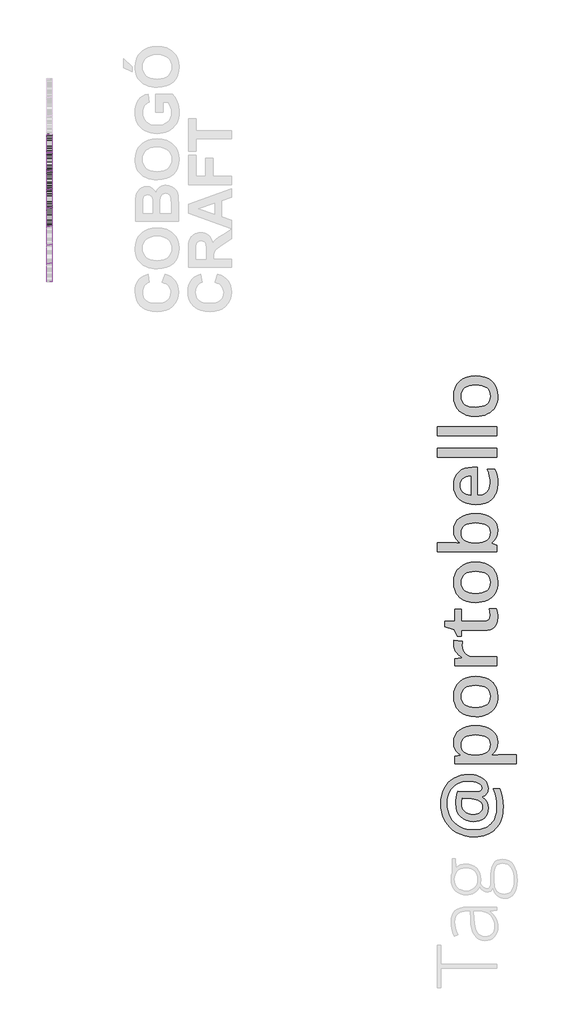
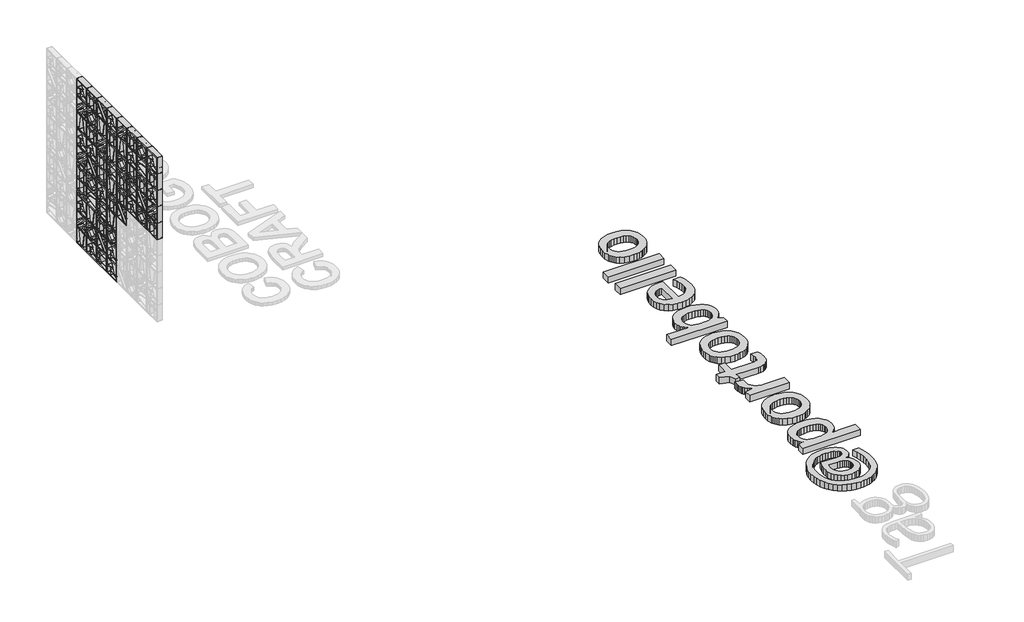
# One storey, part 6 of 8: 62 proxies.
"""IFC4 building model written with IfcOpenShell, lengths in millimetres."""

from ifc_helpers import new_model, si_unit, origin, origin_with_axes, place, context, project, spatial, polyline, outline, extrude, transform, mapped, element, save
from components import plate_7499bc92, plate_dd80494e, plate_f0cbffd6, plate_92f93356, plate_8e8c4e3e, generic_models_fdc848f5, generic_models_516c6d05, generic_models_dbe83256, generic_models_90d806fa, generic_models_d5a960b2

model = new_model("IFC4")

# Units and contexts
model_context = context("Model", 3, world=origin())
ifc_project = project(units=[si_unit("LENGTHUNIT", "METRE", prefix="MILLI")], contexts=[model_context])

# Site, building, storey
site = spatial("IfcSite", under=ifc_project)
building = spatial("IfcBuilding", under=site)
storey = spatial("IfcBuildingStorey", under=building, Name="PORTOBELLO - SHOWROOM", Elevation=0.0)

# Proxies
placement = place(None, origin())
plate_shape = plate_7499bc92(model_context)
element("IfcBuildingElementProxy", 1, Name="PORTOBELLO - STUDIO CRAFT 2 26X26 (COBOGO) : STUDIO CRAFT 2", ObjectType="PORTOBELLO - STUDIO CRAFT 2 26X26 (COBOGO) : STUDIO CRAFT 2", at=placement, inside=storey, context=model_context, shape_type="MappedRepresentation", body=[
    mapped(plate_shape, transform((230423.1947921, -571.129984, 528.0), x_axis=(0.0, 1.0, 0.0), y_axis=(-1.0, 0.0, 0.0), z_axis=(0.0, 0.0, 1.0))),
])
element("IfcBuildingElementProxy", 2, Name="PORTOBELLO - STUDIO CRAFT 2 26X26 (COBOGO) : STUDIO CRAFT 2", ObjectType="PORTOBELLO - STUDIO CRAFT 2 26X26 (COBOGO) : STUDIO CRAFT 2", at=placement, inside=storey, context=model_context, shape_type="MappedRepresentation", body=[
    mapped(plate_shape, transform((230423.1947921, -835.129984, 1056.0), x_axis=(0.0, 1.0, 0.0), y_axis=(-1.0, 0.0, 0.0), z_axis=(0.0, 0.0, 1.0))),
])
element("IfcBuildingElementProxy", 3, Name="PORTOBELLO - STUDIO CRAFT 2 26X26 (COBOGO) : STUDIO CRAFT 2", ObjectType="PORTOBELLO - STUDIO CRAFT 2 26X26 (COBOGO) : STUDIO CRAFT 2", at=placement, inside=storey, context=model_context, shape_type="MappedRepresentation", body=[
    mapped(plate_shape, transform((230423.1947921, -43.129984, 1056.0), x_axis=(0.0, 1.0, 0.0), y_axis=(-1.0, 0.0, 0.0), z_axis=(0.0, 0.0, 1.0))),
])
element("IfcBuildingElementProxy", 4, Name="PORTOBELLO - STUDIO CRAFT 2 26X26 (COBOGO) : STUDIO CRAFT 2", ObjectType="PORTOBELLO - STUDIO CRAFT 2 26X26 (COBOGO) : STUDIO CRAFT 2", at=placement, inside=storey, context=model_context, shape_type="MappedRepresentation", body=[
    mapped(plate_shape, transform((230423.1947921, -1099.129984, 1320.0), x_axis=(0.0, 1.0, 0.0), y_axis=(-1.0, 0.0, 0.0), z_axis=(0.0, 0.0, 1.0))),
])
element("IfcBuildingElementProxy", 5, Name="PORTOBELLO - STUDIO CRAFT 2 26X26 (COBOGO) : STUDIO CRAFT 2", ObjectType="PORTOBELLO - STUDIO CRAFT 2 26X26 (COBOGO) : STUDIO CRAFT 2", at=placement, inside=storey, context=model_context, shape_type="MappedRepresentation", body=[
    mapped(plate_shape, transform((230423.2866589, -1891.129984, 1320.0), x_axis=(0.0, 1.0, 0.0), y_axis=(-1.0, 0.0, 0.0), z_axis=(0.0, 0.0, 1.0))),
])
element("IfcBuildingElementProxy", 6, Name="PORTOBELLO - STUDIO CRAFT 2 26X26 (COBOGO) : STUDIO CRAFT 2", ObjectType="PORTOBELLO - STUDIO CRAFT 2 26X26 (COBOGO) : STUDIO CRAFT 2", at=placement, inside=storey, context=model_context, shape_type="MappedRepresentation", body=[
    mapped(plate_shape, transform((230423.1947921, -571.129984, 1584.0), x_axis=(0.0, 1.0, 0.0), y_axis=(-1.0, 0.0, 0.0), z_axis=(0.0, 0.0, 1.0))),
])
element("IfcBuildingElementProxy", 7, Name="PORTOBELLO - STUDIO CRAFT 2 26X26 (COBOGO) : STUDIO CRAFT 2", ObjectType="PORTOBELLO - STUDIO CRAFT 2 26X26 (COBOGO) : STUDIO CRAFT 2", at=placement, inside=storey, context=model_context, shape_type="MappedRepresentation", body=[
    mapped(plate_shape, transform((230423.1947921, -1099.129984, 1584.0), x_axis=(0.0, 1.0, 0.0), y_axis=(-1.0, 0.0, 0.0), z_axis=(0.0, 0.0, 1.0))),
])
element("IfcBuildingElementProxy", 8, Name="PORTOBELLO - STUDIO CRAFT 2 26X26 (COBOGO) : STUDIO CRAFT 2", ObjectType="PORTOBELLO - STUDIO CRAFT 2 26X26 (COBOGO) : STUDIO CRAFT 2", at=placement, inside=storey, context=model_context, shape_type="MappedRepresentation", body=[
    mapped(plate_shape, transform((230423.2044114, -1627.129984, 1848.0), x_axis=(0.0, 1.0, 0.0), y_axis=(-1.0, 0.0, 0.0), z_axis=(0.0, 0.0, 1.0))),
])
element("IfcBuildingElementProxy", 9, Name="PORTOBELLO - STUDIO CRAFT 2 26X26 (COBOGO) : STUDIO CRAFT 2", ObjectType="PORTOBELLO - STUDIO CRAFT 2 26X26 (COBOGO) : STUDIO CRAFT 2", at=placement, inside=storey, context=model_context, shape_type="MappedRepresentation", body=[
    mapped(plate_shape, transform((230423.1947921, -307.129984, 1848.0), x_axis=(0.0, 1.0, 0.0), y_axis=(-1.0, 0.0, 0.0), z_axis=(0.0, 0.0, 1.0))),
])
element("IfcBuildingElementProxy", 10, Name="PORTOBELLO - STUDIO CRAFT 2 26X26 (COBOGO) : STUDIO CRAFT 2", ObjectType="PORTOBELLO - STUDIO CRAFT 2 26X26 (COBOGO) : STUDIO CRAFT 2", at=placement, inside=storey, context=model_context, shape_type="MappedRepresentation", body=[
    mapped(plate_shape, transform((230423.1947921, -835.129984, 2112.0), x_axis=(0.0, 1.0, 0.0), y_axis=(-1.0, 0.0, 0.0), z_axis=(0.0, 0.0, 1.0))),
])
element("IfcBuildingElementProxy", 11, Name="PORTOBELLO - STUDIO CRAFT 2 26X26 (COBOGO) : STUDIO CRAFT 2", ObjectType="PORTOBELLO - STUDIO CRAFT 2 26X26 (COBOGO) : STUDIO CRAFT 2", at=placement, inside=storey, context=model_context, shape_type="MappedRepresentation", body=[
    mapped(plate_shape, transform((230423.2866589, -1891.129984, 2112.0), x_axis=(0.0, 1.0, 0.0), y_axis=(-1.0, 0.0, 0.0), z_axis=(0.0, 0.0, 1.0))),
])
element("IfcBuildingElementProxy", 12, Name="PORTOBELLO - STUDIO CRAFT 2 26X26 (COBOGO) : STUDIO CRAFT 2", ObjectType="PORTOBELLO - STUDIO CRAFT 2 26X26 (COBOGO) : STUDIO CRAFT 2", at=placement, inside=storey, context=model_context, shape_type="MappedRepresentation", body=[
    mapped(plate_shape, transform((230423.1947921, -1363.129984, 2376.0), x_axis=(0.0, 1.0, 0.0), y_axis=(-1.0, 0.0, 0.0), z_axis=(0.0, 0.0, 1.0))),
])
element("IfcBuildingElementProxy", 13, Name="PORTOBELLO - STUDIO CRAFT 2 26X26 (COBOGO) : STUDIO CRAFT 2", ObjectType="PORTOBELLO - STUDIO CRAFT 2 26X26 (COBOGO) : STUDIO CRAFT 2", at=placement, inside=storey, context=model_context, shape_type="MappedRepresentation", body=[
    mapped(plate_shape, transform((230423.1947921, -307.129984, 2376.0), x_axis=(0.0, 1.0, 0.0), y_axis=(-1.0, 0.0, 0.0), z_axis=(0.0, 0.0, 1.0))),
])
plate_2_shape = plate_dd80494e(model_context)
element("IfcBuildingElementProxy", 14, Name="PORTOBELLO - STUDIO CRAFT 3 26X26 (COBOGO) : STUDIO CRAFT 3", ObjectType="PORTOBELLO - STUDIO CRAFT 3 26X26 (COBOGO) : STUDIO CRAFT 3", at=placement, inside=storey, context=model_context, shape_type="MappedRepresentation", body=[
    mapped(plate_2_shape, transform((230423.1947921, -43.129984, 1848.0), x_axis=(0.0, 1.0, 0.0), y_axis=(-1.0, 0.0, 0.0), z_axis=(0.0, 0.0, 1.0))),
])
element("IfcBuildingElementProxy", 15, Name="PORTOBELLO - STUDIO CRAFT 3 26X26 (COBOGO) : STUDIO CRAFT 3", ObjectType="PORTOBELLO - STUDIO CRAFT 3 26X26 (COBOGO) : STUDIO CRAFT 3", at=placement, inside=storey, context=model_context, shape_type="MappedRepresentation", body=[
    mapped(plate_2_shape, transform((230423.1947921, -1099.129984, 2112.0), x_axis=(0.0, 1.0, 0.0), y_axis=(-1.0, 0.0, 0.0), z_axis=(0.0, 0.0, 1.0))),
])
plate_3_shape = plate_f0cbffd6(model_context)
element("IfcBuildingElementProxy", 16, Name="PORTOBELLO - STUDIO CRAFT 4 26X26 (COBOGO) : STUDIO CRAFT 4", ObjectType="PORTOBELLO - STUDIO CRAFT 4 26X26 (COBOGO) : STUDIO CRAFT 4", at=placement, inside=storey, context=model_context, shape_type="MappedRepresentation", body=[
    mapped(plate_3_shape, transform((230423.1947921, -307.129984, 264.0), x_axis=(0.0, 1.0, 0.0), y_axis=(-1.0, 0.0, 0.0), z_axis=(0.0, 0.0, 1.0))),
])
element("IfcBuildingElementProxy", 17, Name="PORTOBELLO - STUDIO CRAFT 4 26X26 (COBOGO) : STUDIO CRAFT 4", ObjectType="PORTOBELLO - STUDIO CRAFT 4 26X26 (COBOGO) : STUDIO CRAFT 4", at=placement, inside=storey, context=model_context, shape_type="MappedRepresentation", body=[
    mapped(plate_3_shape, transform((230423.1947921, -835.129984, 528.0), x_axis=(0.0, 1.0, 0.0), y_axis=(-1.0, 0.0, 0.0), z_axis=(0.0, 0.0, 1.0))),
])
element("IfcBuildingElementProxy", 18, Name="PORTOBELLO - STUDIO CRAFT 4 26X26 (COBOGO) : STUDIO CRAFT 4", ObjectType="PORTOBELLO - STUDIO CRAFT 4 26X26 (COBOGO) : STUDIO CRAFT 4", at=placement, inside=storey, context=model_context, shape_type="MappedRepresentation", body=[
    mapped(plate_3_shape, transform((230423.1947921, -307.129984, 1056.0), x_axis=(0.0, 1.0, 0.0), y_axis=(-1.0, 0.0, 0.0), z_axis=(0.0, 0.0, 1.0))),
])
element("IfcBuildingElementProxy", 19, Name="PORTOBELLO - STUDIO CRAFT 4 26X26 (COBOGO) : STUDIO CRAFT 4", ObjectType="PORTOBELLO - STUDIO CRAFT 4 26X26 (COBOGO) : STUDIO CRAFT 4", at=placement, inside=storey, context=model_context, shape_type="MappedRepresentation", body=[
    mapped(plate_3_shape, transform((230423.2044114, -1627.129984, 1320.0), x_axis=(0.0, 1.0, 0.0), y_axis=(-1.0, 0.0, 0.0), z_axis=(0.0, 0.0, 1.0))),
])
element("IfcBuildingElementProxy", 20, Name="PORTOBELLO - STUDIO CRAFT 4 26X26 (COBOGO) : STUDIO CRAFT 4", ObjectType="PORTOBELLO - STUDIO CRAFT 4 26X26 (COBOGO) : STUDIO CRAFT 4", at=placement, inside=storey, context=model_context, shape_type="MappedRepresentation", body=[
    mapped(plate_3_shape, transform((230423.1947921, -1099.129984, 1848.0), x_axis=(0.0, 1.0, 0.0), y_axis=(-1.0, 0.0, 0.0), z_axis=(0.0, 0.0, 1.0))),
])
element("IfcBuildingElementProxy", 21, Name="PORTOBELLO - STUDIO CRAFT 4 26X26 (COBOGO) : STUDIO CRAFT 4", ObjectType="PORTOBELLO - STUDIO CRAFT 4 26X26 (COBOGO) : STUDIO CRAFT 4", at=placement, inside=storey, context=model_context, shape_type="MappedRepresentation", body=[
    mapped(plate_3_shape, transform((230423.1947921, -307.129984, 2112.0), x_axis=(0.0, 1.0, 0.0), y_axis=(-1.0, 0.0, 0.0), z_axis=(0.0, 0.0, 1.0))),
])
element("IfcBuildingElementProxy", 22, Name="PORTOBELLO - STUDIO CRAFT 4 26X26 (COBOGO) : STUDIO CRAFT 4", ObjectType="PORTOBELLO - STUDIO CRAFT 4 26X26 (COBOGO) : STUDIO CRAFT 4", at=placement, inside=storey, context=model_context, shape_type="MappedRepresentation", body=[
    mapped(plate_3_shape, transform((230423.2044114, -1627.129984, 2376.0), x_axis=(0.0, 1.0, 0.0), y_axis=(-1.0, 0.0, 0.0), z_axis=(0.0, 0.0, 1.0))),
])
plate_4_shape = plate_92f93356(model_context)
element("IfcBuildingElementProxy", 23, Name="PORTOBELLO - STUDIO CRAFT 5 26X26 (COBOGO) : STUDIO CRAFT 5", ObjectType="PORTOBELLO - STUDIO CRAFT 5 26X26 (COBOGO) : STUDIO CRAFT 5", at=placement, inside=storey, context=model_context, shape_type="MappedRepresentation", body=[
    mapped(plate_4_shape, transform((230423.1947921, -571.129984, 264.0), x_axis=(0.0, 1.0, 0.0), y_axis=(-1.0, 0.0, 0.0), z_axis=(0.0, 0.0, 1.0))),
])
element("IfcBuildingElementProxy", 24, Name="PORTOBELLO - STUDIO CRAFT 5 26X26 (COBOGO) : STUDIO CRAFT 5", ObjectType="PORTOBELLO - STUDIO CRAFT 5 26X26 (COBOGO) : STUDIO CRAFT 5", at=placement, inside=storey, context=model_context, shape_type="MappedRepresentation", body=[
    mapped(plate_4_shape, transform((230423.1947921, -1099.129984, 1056.0), x_axis=(0.0, 1.0, 0.0), y_axis=(-1.0, 0.0, 0.0), z_axis=(0.0, 0.0, 1.0))),
])
element("IfcBuildingElementProxy", 25, Name="PORTOBELLO - STUDIO CRAFT 5 26X26 (COBOGO) : STUDIO CRAFT 5", ObjectType="PORTOBELLO - STUDIO CRAFT 5 26X26 (COBOGO) : STUDIO CRAFT 5", at=placement, inside=storey, context=model_context, shape_type="MappedRepresentation", body=[
    mapped(plate_4_shape, transform((230423.1947921, -307.129984, 1320.0), x_axis=(0.0, 1.0, 0.0), y_axis=(-1.0, 0.0, 0.0), z_axis=(0.0, 0.0, 1.0))),
])
element("IfcBuildingElementProxy", 26, Name="PORTOBELLO - STUDIO CRAFT 5 26X26 (COBOGO) : STUDIO CRAFT 5", ObjectType="PORTOBELLO - STUDIO CRAFT 5 26X26 (COBOGO) : STUDIO CRAFT 5", at=placement, inside=storey, context=model_context, shape_type="MappedRepresentation", body=[
    mapped(plate_4_shape, transform((230423.2044114, -1627.129984, 1584.0), x_axis=(0.0, 1.0, 0.0), y_axis=(-1.0, 0.0, 0.0), z_axis=(0.0, 0.0, 1.0))),
])
element("IfcBuildingElementProxy", 27, Name="PORTOBELLO - STUDIO CRAFT 5 26X26 (COBOGO) : STUDIO CRAFT 5", ObjectType="PORTOBELLO - STUDIO CRAFT 5 26X26 (COBOGO) : STUDIO CRAFT 5", at=placement, inside=storey, context=model_context, shape_type="MappedRepresentation", body=[
    mapped(plate_4_shape, transform((230423.1947921, -571.129984, 2376.0), x_axis=(0.0, 1.0, 0.0), y_axis=(-1.0, 0.0, 0.0), z_axis=(0.0, 0.0, 1.0))),
])
plate_5_shape = plate_8e8c4e3e(model_context)
element("IfcBuildingElementProxy", 28, Name="PORTOBELLO - STUDIO CRAFT 6 26X26 (COBOGO) : STUDIO CRAFT 6", ObjectType="PORTOBELLO - STUDIO CRAFT 6 26X26 (COBOGO) : STUDIO CRAFT 6", at=placement, inside=storey, context=model_context, shape_type="MappedRepresentation", body=[
    mapped(plate_5_shape, transform((230423.1947921, -835.129984, 0.0), x_axis=(0.0, 1.0, 0.0), y_axis=(-1.0, 0.0, 0.0), z_axis=(0.0, 0.0, 1.0))),
])
element("IfcBuildingElementProxy", 29, Name="PORTOBELLO - STUDIO CRAFT 6 26X26 (COBOGO) : STUDIO CRAFT 6", ObjectType="PORTOBELLO - STUDIO CRAFT 6 26X26 (COBOGO) : STUDIO CRAFT 6", at=placement, inside=storey, context=model_context, shape_type="MappedRepresentation", body=[
    mapped(plate_5_shape, transform((230423.1947921, -307.129984, 0.0), x_axis=(0.0, 1.0, 0.0), y_axis=(-1.0, 0.0, 0.0), z_axis=(0.0, 0.0, 1.0))),
])
element("IfcBuildingElementProxy", 30, Name="PORTOBELLO - STUDIO CRAFT 6 26X26 (COBOGO) : STUDIO CRAFT 6", ObjectType="PORTOBELLO - STUDIO CRAFT 6 26X26 (COBOGO) : STUDIO CRAFT 6", at=placement, inside=storey, context=model_context, shape_type="MappedRepresentation", body=[
    mapped(plate_5_shape, transform((230423.1947921, -835.129984, 264.0), x_axis=(0.0, 1.0, 0.0), y_axis=(-1.0, 0.0, 0.0), z_axis=(0.0, 0.0, 1.0))),
])
element("IfcBuildingElementProxy", 31, Name="PORTOBELLO - STUDIO CRAFT 6 26X26 (COBOGO) : STUDIO CRAFT 6", ObjectType="PORTOBELLO - STUDIO CRAFT 6 26X26 (COBOGO) : STUDIO CRAFT 6", at=placement, inside=storey, context=model_context, shape_type="MappedRepresentation", body=[
    mapped(plate_5_shape, transform((230423.1947921, -43.129984, 528.0), x_axis=(0.0, 1.0, 0.0), y_axis=(-1.0, 0.0, 0.0), z_axis=(0.0, 0.0, 1.0))),
])
element("IfcBuildingElementProxy", 32, Name="PORTOBELLO - STUDIO CRAFT 6 26X26 (COBOGO) : STUDIO CRAFT 6", ObjectType="PORTOBELLO - STUDIO CRAFT 6 26X26 (COBOGO) : STUDIO CRAFT 6", at=placement, inside=storey, context=model_context, shape_type="MappedRepresentation", body=[
    mapped(plate_5_shape, transform((230423.1947921, -571.129984, 1056.0), x_axis=(0.0, 1.0, 0.0), y_axis=(-1.0, 0.0, 0.0), z_axis=(0.0, 0.0, 1.0))),
])
element("IfcBuildingElementProxy", 33, Name="PORTOBELLO - STUDIO CRAFT 6 26X26 (COBOGO) : STUDIO CRAFT 6", ObjectType="PORTOBELLO - STUDIO CRAFT 6 26X26 (COBOGO) : STUDIO CRAFT 6", at=placement, inside=storey, context=model_context, shape_type="MappedRepresentation", body=[
    mapped(plate_5_shape, transform((230423.1947921, -1363.129984, 1320.0), x_axis=(0.0, 1.0, 0.0), y_axis=(-1.0, 0.0, 0.0), z_axis=(0.0, 0.0, 1.0))),
])
element("IfcBuildingElementProxy", 34, Name="PORTOBELLO - STUDIO CRAFT 6 26X26 (COBOGO) : STUDIO CRAFT 6", ObjectType="PORTOBELLO - STUDIO CRAFT 6 26X26 (COBOGO) : STUDIO CRAFT 6", at=placement, inside=storey, context=model_context, shape_type="MappedRepresentation", body=[
    mapped(plate_5_shape, transform((230423.1947921, -43.129984, 1584.0), x_axis=(0.0, 1.0, 0.0), y_axis=(-1.0, 0.0, 0.0), z_axis=(0.0, 0.0, 1.0))),
])
element("IfcBuildingElementProxy", 35, Name="PORTOBELLO - STUDIO CRAFT 6 26X26 (COBOGO) : STUDIO CRAFT 6", ObjectType="PORTOBELLO - STUDIO CRAFT 6 26X26 (COBOGO) : STUDIO CRAFT 6", at=placement, inside=storey, context=model_context, shape_type="MappedRepresentation", body=[
    mapped(plate_5_shape, transform((230423.1947921, -307.129984, 1584.0), x_axis=(0.0, 1.0, 0.0), y_axis=(-1.0, 0.0, 0.0), z_axis=(0.0, 0.0, 1.0))),
])
element("IfcBuildingElementProxy", 36, Name="PORTOBELLO - STUDIO CRAFT 6 26X26 (COBOGO) : STUDIO CRAFT 6", ObjectType="PORTOBELLO - STUDIO CRAFT 6 26X26 (COBOGO) : STUDIO CRAFT 6", at=placement, inside=storey, context=model_context, shape_type="MappedRepresentation", body=[
    mapped(plate_5_shape, transform((230423.2866589, -1891.129984, 1848.0), x_axis=(0.0, 1.0, 0.0), y_axis=(-1.0, 0.0, 0.0), z_axis=(0.0, 0.0, 1.0))),
])
element("IfcBuildingElementProxy", 37, Name="PORTOBELLO - STUDIO CRAFT 6 26X26 (COBOGO) : STUDIO CRAFT 6", ObjectType="PORTOBELLO - STUDIO CRAFT 6 26X26 (COBOGO) : STUDIO CRAFT 6", at=placement, inside=storey, context=model_context, shape_type="MappedRepresentation", body=[
    mapped(plate_5_shape, transform((230423.2866589, -1891.129984, 2376.0), x_axis=(0.0, 1.0, 0.0), y_axis=(-1.0, 0.0, 0.0), z_axis=(0.0, 0.0, 1.0))),
])
element("IfcBuildingElementProxy", 38, Name="PORTOBELLO - STUDIO CRAFT 6 26X26 (COBOGO) : STUDIO CRAFT 6", ObjectType="PORTOBELLO - STUDIO CRAFT 6 26X26 (COBOGO) : STUDIO CRAFT 6", at=placement, inside=storey, context=model_context, shape_type="MappedRepresentation", body=[
    mapped(plate_5_shape, transform((230423.1947921, -835.129984, 2376.0), x_axis=(0.0, 1.0, 0.0), y_axis=(-1.0, 0.0, 0.0), z_axis=(0.0, 0.0, 1.0))),
])
element("IfcBuildingElementProxy", 39, Name="PORTOBELLO - STUDIO CRAFT 6 26X26 (COBOGO) : STUDIO CRAFT 6", ObjectType="PORTOBELLO - STUDIO CRAFT 6 26X26 (COBOGO) : STUDIO CRAFT 6", at=placement, inside=storey, context=model_context, shape_type="MappedRepresentation", body=[
    mapped(plate_5_shape, transform((230423.1947921, -43.129984, 2376.0), x_axis=(0.0, 1.0, 0.0), y_axis=(-1.0, 0.0, 0.0), z_axis=(0.0, 0.0, 1.0))),
])
element("IfcBuildingElementProxy", 40, Name="PORTOBELLO - STUDIO CRAFT 6 26X26 (COBOGO) : STUDIO CRAFT 6", ObjectType="PORTOBELLO - STUDIO CRAFT 6 26X26 (COBOGO) : STUDIO CRAFT 6", at=placement, inside=storey, context=model_context, shape_type="MappedRepresentation", body=[
    mapped(plate_5_shape, transform((230423.2866589, -1363.129984, 2112.0), x_axis=(0.0, 1.0, 0.0), y_axis=(-1.0, 0.0, 0.0), z_axis=(0.0, 0.0, 1.0))),
])
generic_models_shape = generic_models_fdc848f5(model_context)
element("IfcBuildingElementProxy", 41, Name="PORTOBELLO - STUDIO CRAFT 5 26X26 (COBOGO) : STUDIO CRAFT 5", ObjectType="PORTOBELLO - STUDIO CRAFT 5 26X26 (COBOGO) : STUDIO CRAFT 5", at=placement, inside=storey, context=model_context, shape_type="MappedRepresentation", body=[
    mapped(generic_models_shape, transform((230423.1947921, -43.129984, 264.0), x_axis=(0.0, 1.0, 0.0), y_axis=(-1.0, 0.0, 0.0), z_axis=(0.0, 0.0, 1.0))),
])
element("IfcBuildingElementProxy", 42, Name="PORTOBELLO - STUDIO CRAFT 5 26X26 (COBOGO) : STUDIO CRAFT 5", ObjectType="PORTOBELLO - STUDIO CRAFT 5 26X26 (COBOGO) : STUDIO CRAFT 5", at=placement, inside=storey, context=model_context, shape_type="MappedRepresentation", body=[
    mapped(generic_models_shape, transform((230423.1947921, -43.129984, 1320.0), x_axis=(0.0, 1.0, 0.0), y_axis=(-1.0, 0.0, 0.0), z_axis=(0.0, 0.0, 1.0))),
])
element("IfcBuildingElementProxy", 43, Name="PORTOBELLO - STUDIO CRAFT 5 26X26 (COBOGO) : STUDIO CRAFT 5", ObjectType="PORTOBELLO - STUDIO CRAFT 5 26X26 (COBOGO) : STUDIO CRAFT 5", at=placement, inside=storey, context=model_context, shape_type="MappedRepresentation", body=[
    mapped(generic_models_shape, transform((230423.2866589, -1891.129984, 1584.0), x_axis=(0.0, 1.0, 0.0), y_axis=(-1.0, 0.0, 0.0), z_axis=(0.0, 0.0, 1.0))),
])
element("IfcBuildingElementProxy", 44, Name="PORTOBELLO - STUDIO CRAFT 5 26X26 (COBOGO) : STUDIO CRAFT 5", ObjectType="PORTOBELLO - STUDIO CRAFT 5 26X26 (COBOGO) : STUDIO CRAFT 5", at=placement, inside=storey, context=model_context, shape_type="MappedRepresentation", body=[
    mapped(generic_models_shape, transform((230423.1947921, -571.129984, 1848.0), x_axis=(0.0, 1.0, 0.0), y_axis=(-1.0, 0.0, 0.0), z_axis=(0.0, 0.0, 1.0))),
])
element("IfcBuildingElementProxy", 45, Name="PORTOBELLO - STUDIO CRAFT 5 26X26 (COBOGO) : STUDIO CRAFT 5", ObjectType="PORTOBELLO - STUDIO CRAFT 5 26X26 (COBOGO) : STUDIO CRAFT 5", at=placement, inside=storey, context=model_context, shape_type="MappedRepresentation", body=[
    mapped(generic_models_shape, transform((230423.1947921, -43.129984, 2112.0), x_axis=(0.0, 1.0, 0.0), y_axis=(-1.0, 0.0, 0.0), z_axis=(0.0, 0.0, 1.0))),
])
element("IfcBuildingElementProxy", 46, Name="PORTOBELLO - STUDIO CRAFT 5 26X26 (COBOGO) : STUDIO CRAFT 5", ObjectType="PORTOBELLO - STUDIO CRAFT 5 26X26 (COBOGO) : STUDIO CRAFT 5", at=placement, inside=storey, context=model_context, shape_type="MappedRepresentation", body=[
    mapped(generic_models_shape, transform((230423.1947921, -1099.129984, 2376.0), x_axis=(0.0, 1.0, 0.0), y_axis=(-1.0, 0.0, 0.0), z_axis=(0.0, 0.0, 1.0))),
])
generic_models_2_shape = generic_models_516c6d05(model_context)
element("IfcBuildingElementProxy", 47, Name="PORTOBELLO - STUDIO CRAFT 2 26X26 (COBOGO) : STUDIO CRAFT 2", ObjectType="PORTOBELLO - STUDIO CRAFT 2 26X26 (COBOGO) : STUDIO CRAFT 2", at=placement, inside=storey, context=model_context, shape_type="MappedRepresentation", body=[
    mapped(generic_models_2_shape, transform((230423.1947921, -571.129984, 0.0), x_axis=(0.0, 1.0, 0.0), y_axis=(-1.0, 0.0, 0.0), z_axis=(0.0, 0.0, 1.0))),
])
element("IfcBuildingElementProxy", 48, Name="PORTOBELLO - STUDIO CRAFT 2 26X26 (COBOGO) : STUDIO CRAFT 2", ObjectType="PORTOBELLO - STUDIO CRAFT 2 26X26 (COBOGO) : STUDIO CRAFT 2", at=placement, inside=storey, context=model_context, shape_type="MappedRepresentation", body=[
    mapped(generic_models_2_shape, transform((230423.1947921, -571.129984, 792.0), x_axis=(0.0, 1.0, 0.0), y_axis=(-1.0, 0.0, 0.0), z_axis=(0.0, 0.0, 1.0))),
])
element("IfcBuildingElementProxy", 49, Name="PORTOBELLO - STUDIO CRAFT 2 26X26 (COBOGO) : STUDIO CRAFT 2", ObjectType="PORTOBELLO - STUDIO CRAFT 2 26X26 (COBOGO) : STUDIO CRAFT 2", at=placement, inside=storey, context=model_context, shape_type="MappedRepresentation", body=[
    mapped(generic_models_2_shape, transform((230423.1947921, -835.129984, 1584.0), x_axis=(0.0, 1.0, 0.0), y_axis=(-1.0, 0.0, 0.0), z_axis=(0.0, 0.0, 1.0))),
])
element("IfcBuildingElementProxy", 50, Name="PORTOBELLO - STUDIO CRAFT 2 26X26 (COBOGO) : STUDIO CRAFT 2", ObjectType="PORTOBELLO - STUDIO CRAFT 2 26X26 (COBOGO) : STUDIO CRAFT 2", at=placement, inside=storey, context=model_context, shape_type="MappedRepresentation", body=[
    mapped(generic_models_2_shape, transform((230423.1947921, -1363.129984, 1584.0), x_axis=(0.0, 1.0, 0.0), y_axis=(-1.0, 0.0, 0.0), z_axis=(0.0, 0.0, 1.0))),
])
generic_models_3_shape = generic_models_dbe83256(model_context)
element("IfcBuildingElementProxy", 51, Name="PORTOBELLO - STUDIO CRAFT 3 26X26 (COBOGO) : STUDIO CRAFT 3", ObjectType="PORTOBELLO - STUDIO CRAFT 3 26X26 (COBOGO) : STUDIO CRAFT 3", at=placement, inside=storey, context=model_context, shape_type="MappedRepresentation", body=[
    mapped(generic_models_3_shape, transform((230423.1947921, -307.129984, 792.0), x_axis=(0.0, 1.0, 0.0), y_axis=(-1.0, 0.0, 0.0), z_axis=(0.0, 0.0, 1.0))),
])
element("IfcBuildingElementProxy", 52, Name="PORTOBELLO - STUDIO CRAFT 3 26X26 (COBOGO) : STUDIO CRAFT 3", ObjectType="PORTOBELLO - STUDIO CRAFT 3 26X26 (COBOGO) : STUDIO CRAFT 3", at=placement, inside=storey, context=model_context, shape_type="MappedRepresentation", body=[
    mapped(generic_models_3_shape, transform((230423.2044114, -1627.129984, 2112.0), x_axis=(0.0, 1.0, 0.0), y_axis=(-1.0, 0.0, 0.0), z_axis=(0.0, 0.0, 1.0))),
])
generic_models_4_shape = generic_models_90d806fa(model_context)
element("IfcBuildingElementProxy", 53, Name="PORTOBELLO - STUDIO CRAFT 2 26X26 (COBOGO) : STUDIO CRAFT 2", ObjectType="PORTOBELLO - STUDIO CRAFT 2 26X26 (COBOGO) : STUDIO CRAFT 2", at=placement, inside=storey, context=model_context, shape_type="MappedRepresentation", body=[
    mapped(generic_models_4_shape, transform((230423.1947921, -43.129984, 792.0), x_axis=(0.0, 1.0, 0.0), y_axis=(-1.0, 0.0, 0.0), z_axis=(0.0, 0.0, 1.0))),
])
element("IfcBuildingElementProxy", 54, Name="PORTOBELLO - STUDIO CRAFT 2 26X26 (COBOGO) : STUDIO CRAFT 2", ObjectType="PORTOBELLO - STUDIO CRAFT 2 26X26 (COBOGO) : STUDIO CRAFT 2", at=placement, inside=storey, context=model_context, shape_type="MappedRepresentation", body=[
    mapped(generic_models_4_shape, transform((230423.1947921, -571.129984, 1320.0), x_axis=(0.0, 1.0, 0.0), y_axis=(-1.0, 0.0, 0.0), z_axis=(0.0, 0.0, 1.0))),
])
element("IfcBuildingElementProxy", 55, Name="PORTOBELLO - STUDIO CRAFT 2 26X26 (COBOGO) : STUDIO CRAFT 2", ObjectType="PORTOBELLO - STUDIO CRAFT 2 26X26 (COBOGO) : STUDIO CRAFT 2", at=placement, inside=storey, context=model_context, shape_type="MappedRepresentation", body=[
    mapped(generic_models_4_shape, transform((230423.1947921, -1363.129984, 1848.0), x_axis=(0.0, 1.0, 0.0), y_axis=(-1.0, 0.0, 0.0), z_axis=(0.0, 0.0, 1.0))),
])
generic_models_5_shape = generic_models_d5a960b2(model_context)
element("IfcBuildingElementProxy", 56, Name="PORTOBELLO - STUDIO CRAFT 3 26X26 (COBOGO) : STUDIO CRAFT 3", ObjectType="PORTOBELLO - STUDIO CRAFT 3 26X26 (COBOGO) : STUDIO CRAFT 3", at=placement, inside=storey, context=model_context, shape_type="MappedRepresentation", body=[
    mapped(generic_models_5_shape, transform((230423.1947921, -43.129984, 0.0), x_axis=(0.0, 1.0, 0.0), y_axis=(-1.0, 0.0, 0.0), z_axis=(0.0, 0.0, 1.0))),
])
element("IfcBuildingElementProxy", 57, Name="PORTOBELLO - STUDIO CRAFT 3 26X26 (COBOGO) : STUDIO CRAFT 3", ObjectType="PORTOBELLO - STUDIO CRAFT 3 26X26 (COBOGO) : STUDIO CRAFT 3", at=placement, inside=storey, context=model_context, shape_type="MappedRepresentation", body=[
    mapped(generic_models_5_shape, transform((230423.1947921, -307.129984, 528.0), x_axis=(0.0, 1.0, 0.0), y_axis=(-1.0, 0.0, 0.0), z_axis=(0.0, 0.0, 1.0))),
])
element("IfcBuildingElementProxy", 58, Name="PORTOBELLO - STUDIO CRAFT 3 26X26 (COBOGO) : STUDIO CRAFT 3", ObjectType="PORTOBELLO - STUDIO CRAFT 3 26X26 (COBOGO) : STUDIO CRAFT 3", at=placement, inside=storey, context=model_context, shape_type="MappedRepresentation", body=[
    mapped(generic_models_5_shape, transform((230423.1947921, -835.129984, 792.0), x_axis=(0.0, 1.0, 0.0), y_axis=(-1.0, 0.0, 0.0), z_axis=(0.0, 0.0, 1.0))),
])
element("IfcBuildingElementProxy", 59, Name="PORTOBELLO - STUDIO CRAFT 3 26X26 (COBOGO) : STUDIO CRAFT 3", ObjectType="PORTOBELLO - STUDIO CRAFT 3 26X26 (COBOGO) : STUDIO CRAFT 3", at=placement, inside=storey, context=model_context, shape_type="MappedRepresentation", body=[
    mapped(generic_models_5_shape, transform((230423.1947921, -835.129984, 1320.0), x_axis=(0.0, 1.0, 0.0), y_axis=(-1.0, 0.0, 0.0), z_axis=(0.0, 0.0, 1.0))),
])
element("IfcBuildingElementProxy", 60, Name="PORTOBELLO - STUDIO CRAFT 3 26X26 (COBOGO) : STUDIO CRAFT 3", ObjectType="PORTOBELLO - STUDIO CRAFT 3 26X26 (COBOGO) : STUDIO CRAFT 3", at=placement, inside=storey, context=model_context, shape_type="MappedRepresentation", body=[
    mapped(generic_models_5_shape, transform((230423.1947921, -835.129984, 1848.0), x_axis=(0.0, 1.0, 0.0), y_axis=(-1.0, 0.0, 0.0), z_axis=(0.0, 0.0, 1.0))),
])
element("IfcBuildingElementProxy", 61, Name="PORTOBELLO - STUDIO CRAFT 3 26X26 (COBOGO) : STUDIO CRAFT 3", ObjectType="PORTOBELLO - STUDIO CRAFT 3 26X26 (COBOGO) : STUDIO CRAFT 3", at=placement, inside=storey, context=model_context, shape_type="MappedRepresentation", body=[
    mapped(generic_models_5_shape, transform((230423.1947921, -571.129984, 2112.0), x_axis=(0.0, 1.0, 0.0), y_axis=(-1.0, 0.0, 0.0), z_axis=(0.0, 0.0, 1.0))),
])
element("IfcBuildingElementProxy", 62, Name="80mm OpenSans Bold", ObjectType="80mm OpenSans Bold", at=placement, inside=storey, context=model_context, shape_type="SweptSolid", body=[
    extrude(outline(polyline([(236419.8591045, -9066.4323544), (236457.9647191, -9067.9797143), (236494.4027907, -9072.6217939), (236529.173319, -9080.3585932), (236562.2763042, -9091.1901123), (236592.7577914, -9104.8309158), (236619.6638256, -9120.9955685), (236642.994407, -9139.6840702), (236662.7495354, -9160.896421), (236678.4710121, -9184.2420253), (236689.7006384, -9209.3302873), (236696.4384141, -9236.161207), (236698.6843394, -9264.7347844), (236692.9756331, -9305.3567367), (236685.8397502, -9323.5044137), (236675.8495141, -9340.2098911), (236663.4255664, -9354.8872755), (236648.9885486, -9366.9506733), (236632.5384607, -9376.4000846), (236614.0753026, -9383.2355092), (236614.0753026, -9389.9657735), (236651.0917562, -9420.1317796), (236677.5320802, -9456.7876833), (236693.3962746, -9499.1522933), (236698.6843394, -9546.4444183), (236695.1314209, -9589.1094866), (236684.4726652, -9626.9672232), (236666.7080726, -9660.0176282), (236641.8376428, -9688.2607016), (236610.8979568, -9710.8701832), (236574.9255956, -9727.0198129), (236533.920559, -9736.7095907), (236487.8828471, -9739.9395167), (236434.7392982, -9735.6579869), (236386.8387453, -9722.8133977), (236344.1811885, -9701.405749), (236306.7666277, -9671.4350409), (236276.3226978, -9634.2533352), (236254.5770336, -9591.2126942), (236241.5296351, -9542.3131177), (236237.1805023, -9487.5546058), (236239.0132975, -9443.2370172), (236244.511683, -9394.4125553), (236253.2550174, -9346.1890098), (236264.8226592, -9303.6741707), (236516.0057372, -9315.9328663), (236528.745166, -9315.9328663), (236566.6029027, -9312.3273676), (236593.6441431, -9301.5108714), (236603.1085773, -9293.3984993), (236609.8688874, -9283.4833778), (236615.2771355, -9258.2448867), (236611.8143544, -9237.4907346), (236601.4260112, -9218.9749964), (236584.1121059, -9202.6976719), (236559.8726384, -9188.6587613), (236530.2699915, -9177.3540204), (236496.8665481, -9169.2792056), (236459.6623081, -9164.4343167), (236418.6572716, -9162.8193537), (236373.5660031, -9165.2380424), (236331.3140649, -9172.4941086), (236291.9014569, -9184.5875523), (236255.3281792, -9201.5183734), (236222.1876367, -9222.9109992), (236193.0732345, -9248.3898568), (236167.9849725, -9277.9549464), (236146.9228508, -9311.6062679), (236130.2549306, -9348.6076985), (236118.3492734, -9388.2231158), (236111.205879, -9430.4525197), (236108.8247476, -9475.2959101), (236111.8143069, -9532.2703014), (236120.782985, -9585.4138504), (236135.7307818, -9634.7265569), (236156.6576974, -9680.2084211), (236183.1355786, -9721.1984348), (236214.7362727, -9757.0355898), (236251.4597795, -9787.7198863), (236293.3060991, -9813.2513241), (236339.4940401, -9833.3369566), (236389.2424111, -9847.683837), (236442.5512121, -9856.2919652), (236499.4204431, -9859.1613413), (236573.5960679, -9853.8056734), (236638.6828314, -9837.7386697), (236667.8178901, -9825.6884169), (236694.6807335, -9810.9603302), (236719.2713616, -9793.5544095), (236741.5897742, -9773.4706548), (236761.4481852, -9750.8855855), (236778.658808, -9725.9757206), (236793.2216427, -9698.7410601), (236805.1366893, -9669.1816042), (236821.0234181, -9603.0883056), (236826.3189943, -9527.6958249), (236823.2242746, -9465.981705), (236813.9401154, -9402.945569), (236798.4665167, -9338.5874167), (236776.8034785, -9272.9072482), (236866.9409467, -9272.9072482), (236887.5523811, -9332.1275648), (236902.2748342, -9393.9318221), (236911.1083061, -9458.3200202), (236914.0527967, -9525.2921591), (236912.3570856, -9574.9072017), (236907.2699522, -9621.7167157), (236898.7913966, -9665.7207009), (236886.9214188, -9706.9191575), (236871.6600187, -9745.3120854), (236853.0071964, -9780.8994845), (236830.9629518, -9813.681355), (236805.527285, -9843.6576967), (236777.0569901, -9870.4454256), (236745.9088613, -9893.6614572), (236712.0828985, -9913.3057917), (236675.5791017, -9929.378429), (236636.397471, -9941.8793691), (236594.5380064, -9950.808612), (236550.0007078, -9956.1661578), (236502.7855752, -9957.9520064), (236433.7177402, -9954.0911182), (236368.5708851, -9942.5084535), (236307.3450098, -9923.2040124), (236250.0401144, -9896.1777949), (236197.9406578, -9862.3011297), (236152.3310989, -9822.4453459), (236113.2114377, -9776.6104433), (236080.5816742, -9724.796422), (236054.8699614, -9668.1750691), (236036.5044523, -9607.9181716), (236025.4851468, -9544.0257296), (236021.812045, -9476.497743), (236024.8767189, -9418.27645), (236034.0707406, -9363.3151288), (236049.3941102, -9311.6137793), (236070.8468276, -9263.1724016), (236097.9631827, -9218.9900193), (236130.277465, -9180.065656), (236167.7896747, -9146.3993116), (236210.4998117, -9117.9909862), (236257.566593, -9095.4340848), (236308.1487356, -9079.3220123), (236362.2462394, -9069.6547689), (236419.8591045, -9066.4323544)]), holes=[polyline([(236489.8057798, -9634.6589538), (236519.2131288, -9633.070281), (236544.6994979, -9628.3042623), (236566.2648872, -9620.3608979), (236583.9092966, -9609.2401878), (236597.6327261, -9594.9421319), (236607.4351758, -9577.4667303), (236613.3166456, -9556.8139829), (236615.2771355, -9532.9838897), (236612.813378, -9507.7003299), (236605.4221056, -9485.4513982), (236593.1033183, -9466.2370945), (236575.8570161, -9450.057419), (236553.6831989, -9436.9123715), (236526.5818668, -9426.8019522), (236494.5530198, -9419.7261609), (236457.5966578, -9415.6849978), (236329.0005365, -9408.9547335), (236322.150089, -9445.2500874), (236319.8666064, -9483.949107), (236322.728471, -9517.5628712), (236331.3140649, -9547.2556555), (236345.623388, -9573.02746), (236365.6564403, -9594.8782845), (236390.5869617, -9612.2823274), (236419.5886921, -9624.7137865), (236452.6616314, -9632.172662), (236489.8057798, -9634.6589538)])]), origin_with_axes(), (0.0, 0.0, 1.0), 100.0),
    extrude(outline(polyline([(236837.1354905, -8607.8129163), (236831.9375632, -8661.3695953), (236816.3437812, -8708.5866057), (236790.3541445, -8749.4639475), (236753.9686532, -8784.0016207), (236753.9686532, -8791.6933514), (236847.9519867, -8784.0016207), (237098.6543316, -8784.0016207), (237098.6543316, -8912.8381086), (236221.797041, -8912.8381086), (236221.797041, -8808.5190121), (236298.9547138, -8790.4915184), (236298.9547138, -8784.0016207), (236277.2653855, -8768.1712279), (236258.4679677, -8750.4855055), (236242.5624603, -8730.9444535), (236229.5488633, -8709.548072), (236219.4271768, -8686.296361), (236212.1974007, -8661.1893203), (236206.4135798, -8605.4092504), (236211.5739499, -8552.603717), (236227.05506, -8505.9575772), (236252.8569103, -8465.4708311), (236288.9795007, -8431.1434786), (236334.4162961, -8403.8017799), (236388.1607615, -8384.2719952), (236450.2128969, -8372.5541243), (236520.5727023, -8368.6481673), (236591.1052711, -8372.6217274), (236653.4353304, -8384.5424076), (236707.56288, -8404.4102078), (236753.48792, -8432.2251282), (236790.0837321, -8467.0407253), (236816.2235979, -8507.9105557), (236831.9075174, -8554.8346193), (236837.1354905, -8607.8129163)]), holes=[polyline([(236314.0978085, -8639.3009385), (236316.89207, -8674.386948), (236325.2748545, -8704.4102363), (236339.2461621, -8729.3708036), (236358.8059927, -8749.2686497), (236384.4951711, -8764.4643245), (236416.8545222, -8775.318378), (236455.8840459, -8781.83081), (236501.5837423, -8784.0016207), (236520.5727023, -8784.0016207), (236571.9210133, -8781.8533444), (236615.6376854, -8775.4085154), (236651.7227185, -8764.6671338), (236680.1761126, -8749.6291995), (236701.7339904, -8729.7088191), (236717.1324745, -8704.3200989), (236726.371565, -8673.4630389), (236729.4512619, -8637.1376392), (236726.041061, -8606.2129762), (236715.8104583, -8579.0590639), (236698.7594539, -8555.6759024), (236674.8880478, -8536.0634916), (236644.7220418, -8520.5523356), (236608.7872378, -8509.4729385), (236567.0836358, -8502.8253002), (236519.6112359, -8500.6094208), (236471.9810954, -8502.8102773), (236430.5253715, -8509.4128468), (236395.2440642, -8520.4171294), (236366.1371734, -8535.823125), (236343.3699513, -8555.4956274), (236327.1076497, -8579.2994305), (236317.3502688, -8607.2345342), (236314.0978085, -8639.3009385)])]), origin_with_axes(), (0.0, 0.0, 1.0), 100.0),
    extrude(outline(polyline([(236520.5727023, -7660.5282173), (236591.1052711, -7665.3355489), (236653.4353304, -7679.7575438), (236707.56288, -7703.794202), (236753.48792, -7737.4455235), (236773.0928194, -7757.6175377), (236790.0837321, -7779.6749273), (236804.4606583, -7803.6176923), (236816.2235979, -7829.4458326), (236831.9075174, -7886.7582395), (236837.1354905, -7951.6121479), (236834.7243132, -7993.2631696), (236827.4907814, -8032.4053652), (236815.4348951, -8069.0387345), (236798.5566541, -8103.1632777), (236777.1790513, -8134.1405209), (236751.625079, -8161.3319905), (236721.8947374, -8184.7376864), (236687.9880265, -8204.3576087), (236650.528397, -8219.8687646), (236610.1392998, -8230.9481618), (236566.8207349, -8237.5958), (236520.5727023, -8239.8116795), (236450.6034926, -8235.0419051), (236388.7616779, -8220.732582), (236335.0472584, -8196.8837103), (236289.4602338, -8163.4952897), (236269.9961743, -8143.4378252), (236253.1273227, -8121.4236265), (236238.853679, -8097.4526935), (236227.1752433, -8071.5250264), (236211.6039957, -8013.7994895), (236206.4135798, -7948.2470157), (236211.7316904, -7885.3535973), (236227.6860223, -7829.3556952), (236254.2765754, -7780.2533094), (236291.5033498, -7738.0464399), (236337.728848, -7704.1322175), (236391.3155729, -7679.9077729), (236452.2635243, -7665.3731062), (236520.5727023, -7660.5282173)]), holes=[polyline([(236520.5727023, -8107.1293263), (236569.5286147, -8104.6655688), (236611.9570721, -8097.2742965), (236647.8580745, -8084.9555091), (236677.231622, -8067.7092069), (236700.0777144, -8045.5353897), (236716.3963519, -8018.4340576), (236726.1875344, -7986.4052106), (236729.4512619, -7949.4488486), (236726.1875344, -7912.8305022), (236716.3963519, -7881.0946019), (236700.0777144, -7854.2411479), (236677.231622, -7832.27014), (236647.8580745, -7815.1815783), (236611.9570721, -7802.9754628), (236569.5286147, -7795.6517935), (236520.5727023, -7793.2105704), (236472.180149, -7795.6668164), (236430.2399362, -7803.0355545), (236394.7520638, -7815.3167845), (236365.7165319, -7832.5105066), (236343.1333404, -7854.6167206), (236327.0024893, -7881.6354267), (236317.3239787, -7913.5666248), (236314.0978085, -7950.410315), (236317.4328948, -7988.8013649), (236327.4381538, -8021.5287774), (236344.1135854, -8048.5925522), (236367.4591896, -8069.9926894), (236397.0393021, -8086.2399681), (236432.4182584, -8097.8451671), (236473.5960584, -8104.8082865), (236520.5727023, -8107.1293263)])]), origin_with_axes(), (0.0, 0.0, 1.0), 100.0),
    extrude(outline(polyline([(236206.4135798, -7209.8408763), (236207.7956876, -7175.1679969), (236211.9420112, -7147.1051985), (236332.1253021, -7159.3638941), (236327.0776039, -7186.7656845), (236325.3950378, -7215.1289411), (236328.5348263, -7251.1839284), (236337.9541917, -7283.633417), (236353.6531341, -7312.4774068), (236375.6316534, -7337.7158979), (236402.6278251, -7358.2221719), (236433.3797247, -7372.8695105), (236467.8873521, -7381.6579136), (236506.1507073, -7384.5873813), (236821.7520293, -7384.5873813), (236821.7520293, -7513.4238692), (236221.797041, -7513.4238692), (236221.797041, -7412.4699048), (236323.9528383, -7395.4038775), (236323.9528383, -7388.9139798), (236298.3087286, -7373.1173885), (236275.4588804, -7355.0523376), (236255.4032938, -7334.718827), (236238.1419686, -7312.1168569), (236224.2607985, -7287.9224581), (236214.345677, -7262.8116618), (236208.3966041, -7236.7844679), (236206.4135798, -7209.8408763)])), origin_with_axes(), (0.0, 0.0, 1.0), 100.0),
    extrude(outline(polyline([(236729.4512619, -6790.8819242), (236725.7856715, -6742.9888828), (236714.7889004, -6694.9756581), (236814.5410318, -6694.9756581), (236823.3745037, -6719.733416), (236830.6455928, -6750.740705), (236835.5130161, -6785.4736761), (236837.1354905, -6821.4084801), (236834.1008624, -6864.7871367), (236824.9969781, -6902.3819723), (236809.8238377, -6934.1929872), (236788.581441, -6960.2201811), (236761.2697881, -6980.4635542), (236727.8888791, -6994.9231064), (236688.4387138, -7003.5988377), (236642.9192924, -7006.4907481), (236314.0978085, -7006.4907481), (236314.0978085, -7090.1383186), (236260.0153275, -7090.1383186), (236215.3071433, -7000.4815836), (236083.3458899, -6956.4944991), (236083.3458899, -6876.9331605), (236221.797041, -6876.9331605), (236221.797041, -6701.2251892), (236314.0978085, -6701.2251892), (236314.0978085, -6876.9331605), (236638.5926939, -6876.9331605), (236660.2782665, -6875.4534037), (236678.9442339, -6871.0141334), (236694.590596, -6863.6153496), (236707.217353, -6853.2570522), (236716.9446882, -6840.4800661), (236723.8927847, -6825.825216), (236729.4512619, -6790.8819242)])), origin_with_axes(), (0.0, 0.0, 1.0), 100.0),
    extrude(outline(polyline([(236520.5727023, -6029.8813261), (236591.1052711, -6034.6886578), (236653.4353304, -6049.1106527), (236707.56288, -6073.1473109), (236753.48792, -6106.7986323), (236773.0928194, -6126.9706465), (236790.0837321, -6149.0280362), (236804.4606583, -6172.9708011), (236816.2235979, -6198.7989415), (236831.9075174, -6256.1113484), (236837.1354905, -6320.9652567), (236834.7243132, -6362.6162785), (236827.4907814, -6401.758474), (236815.4348951, -6438.3918434), (236798.5566541, -6472.5163866), (236777.1790513, -6503.4936298), (236751.625079, -6530.6850994), (236721.8947374, -6554.0907953), (236687.9880265, -6573.7107175), (236650.528397, -6589.2218735), (236610.1392998, -6600.3012706), (236566.8207349, -6606.9489089), (236520.5727023, -6609.1647883), (236450.6034926, -6604.395014), (236388.7616779, -6590.0856909), (236335.0472584, -6566.2368191), (236289.4602338, -6532.8483986), (236269.9961743, -6512.7909341), (236253.1273227, -6490.7767353), (236238.853679, -6466.8058024), (236227.1752433, -6440.8781352), (236211.6039957, -6383.1525983), (236206.4135798, -6317.6001246), (236211.7316904, -6254.7067062), (236227.6860223, -6198.708804), (236254.2765754, -6149.6064182), (236291.5033498, -6107.3995488), (236337.728848, -6073.4853264), (236391.3155729, -6049.2608818), (236452.2635243, -6034.726215), (236520.5727023, -6029.8813261)]), holes=[polyline([(236520.5727023, -6476.4824352), (236569.5286147, -6474.0186777), (236611.9570721, -6466.6274053), (236647.8580745, -6454.308618), (236677.231622, -6437.0623157), (236700.0777144, -6414.8884986), (236716.3963519, -6387.7871665), (236726.1875344, -6355.7583194), (236729.4512619, -6318.8019575), (236726.1875344, -6282.183611), (236716.3963519, -6250.4477108), (236700.0777144, -6223.5942567), (236677.231622, -6201.6232488), (236647.8580745, -6184.5346872), (236611.9570721, -6172.3285717), (236569.5286147, -6165.0049024), (236520.5727023, -6162.5636793), (236472.180149, -6165.0199253), (236430.2399362, -6172.3886633), (236394.7520638, -6184.6698934), (236365.7165319, -6201.8636154), (236343.1333404, -6223.9698295), (236327.0024893, -6250.9885356), (236317.3239787, -6282.9197337), (236314.0978085, -6319.7634238), (236317.4328948, -6358.1544738), (236327.4381538, -6390.8818862), (236344.1135854, -6417.945661), (236367.4591896, -6439.3457983), (236397.0393021, -6455.5930769), (236432.4182584, -6467.1982759), (236473.5960584, -6474.1613954), (236520.5727023, -6476.4824352)])]), origin_with_axes(), (0.0, 0.0, 1.0), 100.0),
    extrude(outline(polyline([(236206.4135798, -5574.8673867), (236211.5739499, -5522.0618533), (236227.05506, -5475.4157135), (236252.8569103, -5434.9289674), (236288.9795007, -5400.6016149), (236334.4162961, -5373.2599162), (236388.1607615, -5353.7301314), (236450.2128969, -5342.0122606), (236520.5727023, -5338.1063036), (236591.300569, -5342.0573293), (236653.7357886, -5353.9104064), (236707.8783611, -5373.6655348), (236753.7282866, -5401.3227146), (236790.2189383, -5436.010617), (236816.2836895, -5476.857913), (236831.9225403, -5523.8646026), (236837.1354905, -5577.030686), (236831.9375632, -5630.6925254), (236816.3437812, -5677.9846503), (236790.3541445, -5718.9070609), (236753.9686532, -5753.459757), (236753.9686532, -5762.112954), (236821.7520293, -5785.668879), (236821.7520293, -5882.2962449), (235975.6616612, -5882.2962449), (235975.6616612, -5753.459757), (236175.6466573, -5753.459757), (236241.627284, -5755.6230563), (236297.2721477, -5758.7478218), (236297.2721477, -5753.459757), (236275.9771709, -5737.4190434), (236257.5215243, -5719.5830919), (236241.9052079, -5699.9519025), (236229.1282218, -5678.5254751), (236219.1905659, -5655.3038099), (236212.0922403, -5630.2869067), (236206.4135798, -5574.8673867)]), holes=[polyline([(236314.0978085, -5608.7590748), (236316.9446502, -5644.303283), (236325.4851753, -5674.4993349), (236339.7193838, -5699.3472303), (236359.6472757, -5718.8469692), (236386.2453403, -5733.629514), (236420.4900667, -5744.3258269), (236462.3814551, -5750.9359079), (236511.9195053, -5753.459757), (236520.5727023, -5753.459757), (236571.9210133, -5751.3114807), (236615.6376854, -5744.8666517), (236651.7227185, -5734.1252701), (236680.1761126, -5719.0873358), (236701.7339904, -5699.1669554), (236717.1324745, -5673.7782351), (236726.371565, -5642.9211752), (236729.4512619, -5606.5957755), (236726.0786183, -5575.0852189), (236715.9606875, -5547.6158255), (236699.0974695, -5524.1875952), (236675.4889642, -5504.8005281), (236645.5107446, -5489.6048533), (236609.5383834, -5478.7507998), (236567.5718805, -5472.2383677), (236519.6112359, -5470.067557), (236471.4440264, -5472.234612), (236429.6991114, -5478.7357769), (236394.3764911, -5489.5710517), (236365.4761653, -5504.7404365), (236342.9981342, -5524.2439312), (236326.9423977, -5548.0815358), (236317.3089558, -5576.2532503), (236314.0978085, -5608.7590748)])]), origin_with_axes(), (0.0, 0.0, 1.0), 100.0),
    extrude(outline(polyline([(236837.1354905, -4909.2923216), (236831.9600976, -4976.1067199), (236816.4339187, -5035.2143647), (236804.7892845, -5061.8781545), (236790.5569538, -5086.6152559), (236773.7369267, -5109.425669), (236754.3292031, -5130.3093936), (236709.012591, -5165.1700594), (236655.869042, -5190.070535), (236594.8985562, -5205.0108204), (236526.1011336, -5209.9909155), (236455.5685648, -5205.3713703), (236392.9981389, -5191.5127345), (236338.3898561, -5168.4150083), (236291.7437164, -5136.0781916), (236254.4117816, -5095.6590486), (236227.7461139, -5048.3143434), (236211.7467133, -4994.0440761), (236206.4135798, -4932.8482467), (236210.9054303, -4876.1292448), (236224.3809818, -4825.674797), (236246.8402343, -4781.4849032), (236278.2831878, -4743.5595635), (236317.5981468, -4713.1156336), (236363.673416, -4691.3699694), (236416.5089952, -4678.3225709), (236476.1048846, -4673.973438), (236544.849727, -4673.973438), (236544.849727, -5077.3085623), (236586.7486268, -5073.3425137), (236623.5096909, -5064.0884003), (236655.1329193, -5049.5462221), (236681.6183121, -5029.7159791), (236702.5452276, -5004.9582212), (236717.4930244, -4975.6334982), (236726.4617025, -4941.7418102), (236729.4512619, -4903.2831571), (236726.9274128, -4851.5142045), (236719.3558654, -4803.4108423), (236705.8953368, -4755.4276634), (236685.704544, -4704.0192608), (236793.6291392, -4704.0192608), (236813.9401154, -4751.4015232), (236827.2804607, -4799.3246104), (236834.6717331, -4850.9132881), (236837.1354905, -4909.2923216)]), holes=[polyline([(236298.7143472, -4933.0886132), (236301.1705932, -4962.1053665), (236308.5393313, -4988.1025147), (236320.8205613, -5011.0800576), (236338.0142834, -5031.0379953), (236359.9101767, -5047.6308009), (236386.2979205, -5060.5129474), (236417.1775148, -5069.6844348), (236452.5489596, -5075.1452631), (236452.5489596, -4800.6466266), (236416.9822169, -4803.3582621), (236385.9974623, -4810.2913357), (236359.5946955, -4821.4458474), (236337.7739168, -4836.8217972), (236320.6853551, -4855.9534748), (236308.4792396, -4878.37517), (236301.1555703, -4904.0868828), (236298.7143472, -4933.0886132)])]), origin_with_axes(), (0.0, 0.0, 1.0), 100.0),
    extrude(outline(polyline([(236821.7520293, -4400.1959013), (236821.7520293, -4529.0323892), (235975.6616612, -4529.0323892), (235975.6616612, -4400.1959013), (236821.7520293, -4400.1959013)])), origin_with_axes(), (0.0, 0.0, 1.0), 100.0),
    extrude(outline(polyline([(236821.7520293, -4092.5266766), (236821.7520293, -4221.3631644), (235975.6616612, -4221.3631644), (235975.6616612, -4092.5266766), (236821.7520293, -4092.5266766)])), origin_with_axes(), (0.0, 0.0, 1.0), 100.0),
    extrude(outline(polyline([(236520.5727023, -3368.5425321), (236591.1052711, -3373.3498637), (236653.4353304, -3387.7718586), (236707.56288, -3411.8085168), (236753.48792, -3445.4598383), (236773.0928194, -3465.6318525), (236790.0837321, -3487.6892421), (236804.4606583, -3511.6320071), (236816.2235979, -3537.4601475), (236831.9075174, -3594.7725543), (236837.1354905, -3659.6264627), (236834.7243132, -3701.2774845), (236827.4907814, -3740.41968), (236815.4348951, -3777.0530494), (236798.5566541, -3811.1775925), (236777.1790513, -3842.1548358), (236751.625079, -3869.3463053), (236721.8947374, -3892.7520013), (236687.9880265, -3912.3719235), (236650.528397, -3927.8830795), (236610.1392998, -3938.9624766), (236566.8207349, -3945.6101149), (236520.5727023, -3947.8259943), (236450.6034926, -3943.05622), (236388.7616779, -3928.7468969), (236335.0472584, -3904.8980251), (236289.4602338, -3871.5096046), (236269.9961743, -3851.45214), (236253.1273227, -3829.4379413), (236238.853679, -3805.4670084), (236227.1752433, -3779.5393412), (236211.6039957, -3721.8138043), (236206.4135798, -3656.2613306), (236211.7316904, -3593.3679121), (236227.6860223, -3537.37001), (236254.2765754, -3488.2676242), (236291.5033498, -3446.0607547), (236337.728848, -3412.1465323), (236391.3155729, -3387.9220878), (236452.2635243, -3373.387421), (236520.5727023, -3368.5425321)]), holes=[polyline([(236520.5727023, -3815.1436411), (236569.5286147, -3812.6798837), (236611.9570721, -3805.2886113), (236647.8580745, -3792.969824), (236677.231622, -3775.7235217), (236700.0777144, -3753.5497045), (236716.3963519, -3726.4483724), (236726.1875344, -3694.4195254), (236729.4512619, -3657.4631635), (236726.1875344, -3620.844817), (236716.3963519, -3589.1089168), (236700.0777144, -3562.2554627), (236677.231622, -3540.2844548), (236647.8580745, -3523.1958931), (236611.9570721, -3510.9897777), (236569.5286147, -3503.6661084), (236520.5727023, -3501.2248853), (236472.180149, -3503.6811313), (236430.2399362, -3511.0498693), (236394.7520638, -3523.3310993), (236365.7165319, -3540.5248214), (236343.1333404, -3562.6310355), (236327.0024893, -3589.6497416), (236317.3239787, -3621.5809397), (236314.0978085, -3658.4246298), (236317.4328948, -3696.8156798), (236327.4381538, -3729.5430922), (236344.1135854, -3756.606867), (236367.4591896, -3778.0070043), (236397.0393021, -3794.2542829), (236432.4182584, -3805.8594819), (236473.5960584, -3812.8226013), (236520.5727023, -3815.1436411)])]), origin_with_axes(), (0.0, 0.0, 1.0), 100.0),
])

save(model, "model.ifc")
